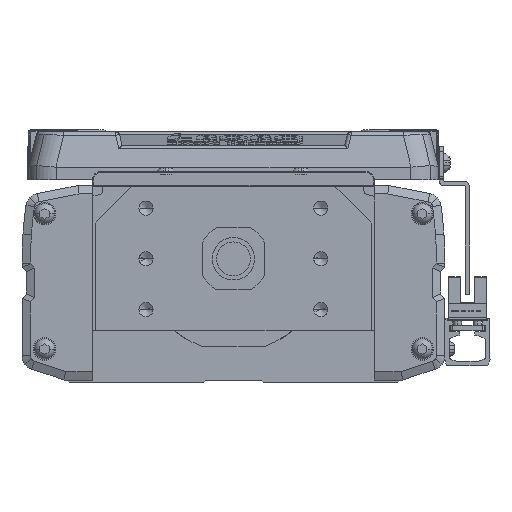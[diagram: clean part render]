
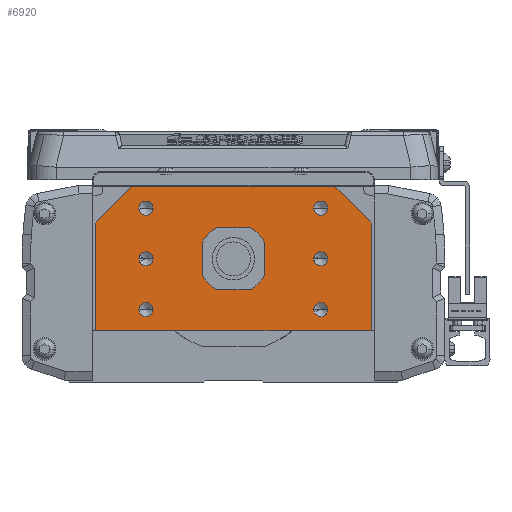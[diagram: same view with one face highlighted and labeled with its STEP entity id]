
A CAD part, left-side view. The second image highlights one B-rep face of the part: STEP entity #6920.
In plain terms, the highlighted planar face has unit normal (-1, 0, 0).
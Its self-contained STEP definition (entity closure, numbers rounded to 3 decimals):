
#6920=ADVANCED_FACE('',(#14243,#14244,#14245,#14246,#14247,#14248,#14249,#14250),#14251,.F.);
#14243=FACE_OUTER_BOUND('',#22918,.T.);
#14244=FACE_BOUND('',#22919,.T.);
#14245=FACE_BOUND('',#22920,.T.);
#14246=FACE_BOUND('',#22921,.T.);
#14247=FACE_BOUND('',#22922,.T.);
#14248=FACE_BOUND('',#22923,.T.);
#14249=FACE_BOUND('',#22924,.T.);
#14250=FACE_BOUND('',#22925,.T.);
#14251=PLANE('',#22926);
#22918=EDGE_LOOP('',(#42974,#42975,#42976,#42977,#42978,#42979,#42980,#42981));
#22919=EDGE_LOOP('',(#42982,#42983));
#22920=EDGE_LOOP('',(#42984,#42985));
#22921=EDGE_LOOP('',(#42986,#42987));
#22922=EDGE_LOOP('',(#42988,#42989));
#22923=EDGE_LOOP('',(#42990,#42991));
#22924=EDGE_LOOP('',(#42992,#42993));
#22925=EDGE_LOOP('',(#42994,#42995));
#22926=AXIS2_PLACEMENT_3D('',#42996,#42997,#42998);
#42974=ORIENTED_EDGE('',*,*,#48289,.F.);
#42975=ORIENTED_EDGE('',*,*,#52974,.F.);
#42976=ORIENTED_EDGE('',*,*,#54407,.F.);
#42977=ORIENTED_EDGE('',*,*,#48139,.F.);
#42978=ORIENTED_EDGE('',*,*,#49768,.F.);
#42979=ORIENTED_EDGE('',*,*,#53617,.F.);
#42980=ORIENTED_EDGE('',*,*,#54228,.F.);
#42981=ORIENTED_EDGE('',*,*,#52895,.F.);
#42982=ORIENTED_EDGE('',*,*,#53838,.T.);
#42983=ORIENTED_EDGE('',*,*,#54642,.T.);
#42984=ORIENTED_EDGE('',*,*,#52279,.T.);
#42985=ORIENTED_EDGE('',*,*,#54643,.T.);
#42986=ORIENTED_EDGE('',*,*,#49436,.T.);
#42987=ORIENTED_EDGE('',*,*,#51344,.T.);
#42988=ORIENTED_EDGE('',*,*,#48082,.T.);
#42989=ORIENTED_EDGE('',*,*,#54582,.T.);
#42990=ORIENTED_EDGE('',*,*,#51835,.T.);
#42991=ORIENTED_EDGE('',*,*,#53767,.T.);
#42992=ORIENTED_EDGE('',*,*,#54387,.T.);
#42993=ORIENTED_EDGE('',*,*,#53897,.T.);
#42994=ORIENTED_EDGE('',*,*,#53261,.F.);
#42995=ORIENTED_EDGE('',*,*,#54644,.F.);
#42996=CARTESIAN_POINT('',(0.,0.275,-2.548));
#42997=DIRECTION('',(1.0,0.,0.));
#42998=DIRECTION('',(0.,1.0,0.));
#48082=EDGE_CURVE('',#57735,#57738,#57740,.T.);
#48139=EDGE_CURVE('',#57834,#57836,#57837,.T.);
#48289=EDGE_CURVE('',#58104,#58105,#58106,.T.);
#49436=EDGE_CURVE('',#60006,#60010,#60012,.T.);
#49768=EDGE_CURVE('',#60568,#57834,#60570,.T.);
#51344=EDGE_CURVE('',#60010,#60006,#62949,.T.);
#51835=EDGE_CURVE('',#63664,#63666,#63668,.T.);
#52279=EDGE_CURVE('',#64296,#64298,#64300,.T.);
#52895=EDGE_CURVE('',#58105,#65119,#65120,.T.);
#52974=EDGE_CURVE('',#65214,#58104,#65216,.T.);
#53261=EDGE_CURVE('',#65577,#65575,#65579,.F.);
#53617=EDGE_CURVE('',#66012,#60568,#66014,.T.);
#53767=EDGE_CURVE('',#63666,#63664,#66196,.T.);
#53838=EDGE_CURVE('',#66282,#66284,#66286,.T.);
#53897=EDGE_CURVE('',#66362,#66360,#66363,.T.);
#54228=EDGE_CURVE('',#65119,#66012,#66753,.T.);
#54387=EDGE_CURVE('',#66360,#66362,#66940,.T.);
#54407=EDGE_CURVE('',#57836,#65214,#66962,.T.);
#54582=EDGE_CURVE('',#57738,#57735,#67156,.T.);
#54642=EDGE_CURVE('',#66284,#66282,#67221,.T.);
#54643=EDGE_CURVE('',#64298,#64296,#67222,.T.);
#54644=EDGE_CURVE('',#65575,#65577,#67223,.F.);
#57735=VERTEX_POINT('',#71510);
#57738=VERTEX_POINT('',#71514);
#57740=CIRCLE('',#71517,2.5);
#57834=VERTEX_POINT('',#71672);
#57836=VERTEX_POINT('',#71675);
#57837=LINE('',#71676,#71677);
#58104=VERTEX_POINT('',#72034);
#58105=VERTEX_POINT('',#72035);
#58106=LINE('',#72036,#72037);
#60006=VERTEX_POINT('',#74608);
#60010=VERTEX_POINT('',#74613);
#60012=CIRCLE('',#74616,2.5);
#60568=VERTEX_POINT('',#75391);
#60570=LINE('',#75394,#75395);
#62949=CIRCLE('',#78598,2.5);
#63664=VERTEX_POINT('',#79698);
#63666=VERTEX_POINT('',#79701);
#63668=CIRCLE('',#79704,2.5);
#64296=VERTEX_POINT('',#80577);
#64298=VERTEX_POINT('',#80580);
#64300=CIRCLE('',#80583,2.5);
#65119=VERTEX_POINT('',#81713);
#65120=LINE('',#81714,#81715);
#65214=VERTEX_POINT('',#81857);
#65216=LINE('',#81860,#81861);
#65575=VERTEX_POINT('',#82382);
#65577=VERTEX_POINT('',#82385);
#65579=CIRCLE('',#82388,7.5);
#66012=VERTEX_POINT('',#82989);
#66014=LINE('',#82992,#82993);
#66196=CIRCLE('',#83254,2.5);
#66282=VERTEX_POINT('',#83366);
#66284=VERTEX_POINT('',#83369);
#66286=CIRCLE('',#83372,2.5);
#66360=VERTEX_POINT('',#83464);
#66362=VERTEX_POINT('',#83467);
#66363=CIRCLE('',#83468,2.5);
#66753=LINE('',#84013,#84014);
#66940=CIRCLE('',#84259,2.5);
#66962=LINE('',#84290,#84291);
#67156=CIRCLE('',#84544,2.5);
#67221=CIRCLE('',#84627,2.5);
#67222=CIRCLE('',#84628,2.5);
#67223=CIRCLE('',#84629,7.5);
#71510=CARTESIAN_POINT('',(0.,-33.5,18.));
#71514=CARTESIAN_POINT('',(0.,-28.5,18.));
#71517=AXIS2_PLACEMENT_3D('',#87186,#87187,#87188);
#71672=CARTESIAN_POINT('',(0.,-48.5,-25.5));
#71675=CARTESIAN_POINT('',(0.,48.5,-25.5));
#71676=CARTESIAN_POINT('',(0.,0.,-25.5));
#71677=VECTOR('',#87262,10.0);
#72034=CARTESIAN_POINT('',(0.,49.,12.7));
#72035=CARTESIAN_POINT('',(0.,36.,25.7));
#72036=CARTESIAN_POINT('',(0.,37.381,24.319));
#72037=VECTOR('',#87464,10.);
#74608=CARTESIAN_POINT('',(0.,33.5,18.));
#74613=CARTESIAN_POINT('',(0.,28.5,18.));
#74616=AXIS2_PLACEMENT_3D('',#89053,#89054,#89055);
#75391=CARTESIAN_POINT('',(0.,-49.,-25.));
#75394=CARTESIAN_POINT('',(0.,-49.,-25.));
#75395=VECTOR('',#89534,10.0);
#78598=AXIS2_PLACEMENT_3D('',#91663,#91664,#91665);
#79698=CARTESIAN_POINT('',(0.,33.5,0.));
#79701=CARTESIAN_POINT('',(0.,28.5,0.));
#79704=AXIS2_PLACEMENT_3D('',#92279,#92280,#92281);
#80577=CARTESIAN_POINT('',(0.,-33.5,-18.));
#80580=CARTESIAN_POINT('',(0.,-28.5,-18.));
#80583=AXIS2_PLACEMENT_3D('',#92877,#92878,#92879);
#81713=CARTESIAN_POINT('',(0.,-36.,25.7));
#81714=CARTESIAN_POINT('',(0.,34.5,25.7));
#81715=VECTOR('',#93583,10.0);
#81857=CARTESIAN_POINT('',(0.,49.,-25.));
#81860=CARTESIAN_POINT('',(0.,49.,-25.));
#81861=VECTOR('',#93661,10.0);
#82382=CARTESIAN_POINT('',(0.,-7.5,0.));
#82385=CARTESIAN_POINT('',(0.,7.5,0.));
#82388=AXIS2_PLACEMENT_3D('',#93965,#93966,#93967);
#82989=CARTESIAN_POINT('',(0.,-49.,12.7));
#82992=CARTESIAN_POINT('',(0.,-49.,-14.));
#82993=VECTOR('',#94336,10.0);
#83254=AXIS2_PLACEMENT_3D('',#94474,#94475,#94476);
#83366=CARTESIAN_POINT('',(0.,33.5,-18.));
#83369=CARTESIAN_POINT('',(0.,28.5,-18.));
#83372=AXIS2_PLACEMENT_3D('',#94566,#94567,#94568);
#83464=CARTESIAN_POINT('',(0.,-33.5,0.));
#83467=CARTESIAN_POINT('',(0.,-28.5,0.));
#83468=AXIS2_PLACEMENT_3D('',#94648,#94649,#94650);
#84013=CARTESIAN_POINT('',(0.,-37.243,24.457));
#84014=VECTOR('',#94989,10.0);
#84259=AXIS2_PLACEMENT_3D('',#95135,#95136,#95137);
#84290=CARTESIAN_POINT('',(0.,48.5,-25.5));
#84291=VECTOR('',#95153,10.0);
#84544=AXIS2_PLACEMENT_3D('',#95327,#95328,#95329);
#84627=AXIS2_PLACEMENT_3D('',#95384,#95385,#95386);
#84628=AXIS2_PLACEMENT_3D('',#95387,#95388,#95389);
#84629=AXIS2_PLACEMENT_3D('',#95390,#95391,#95392);
#87186=CARTESIAN_POINT('',(0.,-31.,18.));
#87187=DIRECTION('',(1.0,0.,0.));
#87188=DIRECTION('',(0.,-1.0,0.));
#87262=DIRECTION('',(0.,1.0,0.));
#87464=DIRECTION('',(0.,-0.707,0.707));
#89053=CARTESIAN_POINT('',(0.,31.,18.));
#89054=DIRECTION('',(1.0,0.,0.));
#89055=DIRECTION('',(0.,1.0,0.));
#89534=DIRECTION('',(0.,0.707,-0.707));
#91663=CARTESIAN_POINT('',(0.,31.,18.));
#91664=DIRECTION('',(1.0,0.,0.));
#91665=DIRECTION('',(0.,1.0,0.));
#92279=CARTESIAN_POINT('',(0.,31.,0.));
#92280=DIRECTION('',(1.0,0.,0.));
#92281=DIRECTION('',(0.,1.0,0.));
#92877=CARTESIAN_POINT('',(0.,-31.,-18.));
#92878=DIRECTION('',(1.0,0.,0.));
#92879=DIRECTION('',(0.,-1.0,0.));
#93583=DIRECTION('',(0.,-1.0,0.));
#93661=DIRECTION('',(0.,0.,1.0));
#93965=CARTESIAN_POINT('',(0.,0.,0.));
#93966=DIRECTION('',(1.0,0.,0.));
#93967=DIRECTION('',(0.,-1.0,0.));
#94336=DIRECTION('',(0.,0.,-1.0));
#94474=CARTESIAN_POINT('',(0.,31.,0.));
#94475=DIRECTION('',(1.0,0.,0.));
#94476=DIRECTION('',(0.,1.0,0.));
#94566=CARTESIAN_POINT('',(0.,31.,-18.));
#94567=DIRECTION('',(1.0,0.,0.));
#94568=DIRECTION('',(0.,1.0,0.));
#94648=CARTESIAN_POINT('',(0.,-31.,0.));
#94649=DIRECTION('',(1.0,0.,0.));
#94650=DIRECTION('',(0.,-1.0,0.));
#94989=DIRECTION('',(0.,-0.707,-0.707));
#95135=CARTESIAN_POINT('',(0.,-31.,0.));
#95136=DIRECTION('',(1.0,0.,0.));
#95137=DIRECTION('',(0.,-1.0,0.));
#95153=DIRECTION('',(0.,0.707,0.707));
#95327=CARTESIAN_POINT('',(0.,-31.,18.));
#95328=DIRECTION('',(1.0,0.,0.));
#95329=DIRECTION('',(0.,-1.0,0.));
#95384=CARTESIAN_POINT('',(0.,31.,-18.));
#95385=DIRECTION('',(1.0,0.,0.));
#95386=DIRECTION('',(0.,1.0,0.));
#95387=CARTESIAN_POINT('',(0.,-31.,-18.));
#95388=DIRECTION('',(1.0,0.,0.));
#95389=DIRECTION('',(0.,-1.0,0.));
#95390=CARTESIAN_POINT('',(0.,0.,0.));
#95391=DIRECTION('',(1.0,0.,0.));
#95392=DIRECTION('',(0.,-1.0,0.));
